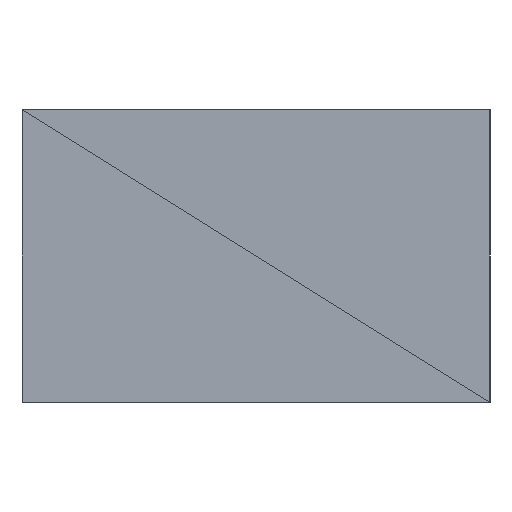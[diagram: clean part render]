
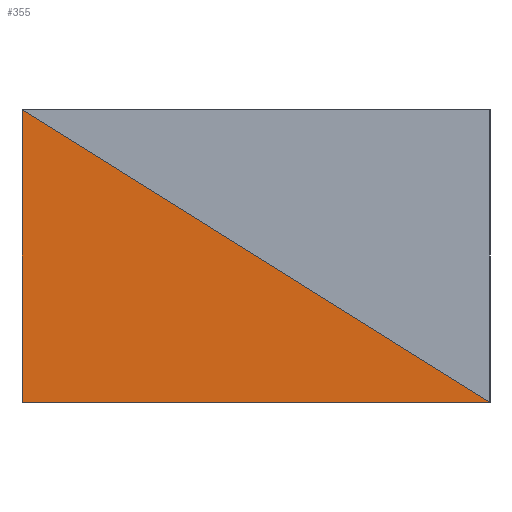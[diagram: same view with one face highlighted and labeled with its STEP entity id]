
A CAD part, left-side view. The second image highlights one B-rep face of the part: STEP entity #355.
In plain terms, the highlighted planar face has unit normal (-1, 0, 0).
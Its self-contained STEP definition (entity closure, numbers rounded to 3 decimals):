
#24 = VERTEX_POINT('',#25);
#25 = CARTESIAN_POINT('',(-463.,89.,330.));
#32 = PLANE('',#33);
#33 = AXIS2_PLACEMENT_3D('',#34,#35,#36);
#34 = CARTESIAN_POINT('',(-426.56,111.56,330.));
#35 = DIRECTION('',(-0.,-0.,-1.));
#36 = DIRECTION('',(-1.,0.,0.));
#55 = EDGE_CURVE('',#24,#56,#58,.T.);
#56 = VERTEX_POINT('',#57);
#57 = CARTESIAN_POINT('',(-463.,121.,330.));
#58 = SURFACE_CURVE('',#59,(#63,#70),.PCURVE_S1.);
#59 = LINE('',#60,#61);
#60 = CARTESIAN_POINT('',(-463.,89.,330.));
#61 = VECTOR('',#62,1.);
#62 = DIRECTION('',(0.,1.,0.));
#63 = PCURVE('',#32,#64);
#64 = DEFINITIONAL_REPRESENTATION('',(#65),#69);
#65 = LINE('',#66,#67);
#66 = CARTESIAN_POINT('',(36.44,-22.56));
#67 = VECTOR('',#68,1.);
#68 = DIRECTION('',(0.,1.));
#69 = ( GEOMETRIC_REPRESENTATION_CONTEXT(2) 
PARAMETRIC_REPRESENTATION_CONTEXT() REPRESENTATION_CONTEXT('2D SPACE',''
  ) );
#70 = PCURVE('',#71,#76);
#71 = PLANE('',#72);
#72 = AXIS2_PLACEMENT_3D('',#73,#74,#75);
#73 = CARTESIAN_POINT('',(-463.,108.566,336.434));
#74 = DIRECTION('',(-1.,-0.,-0.));
#75 = DIRECTION('',(0.,0.,-1.));
#76 = DEFINITIONAL_REPRESENTATION('',(#77),#80);
#77 = B_SPLINE_CURVE_WITH_KNOTS('',1,(#78,#79),.UNSPECIFIED.,.F.,.F.,(2,
    2),(0.,32.),.PIECEWISE_BEZIER_KNOTS.);
#78 = CARTESIAN_POINT('',(6.434,19.566));
#79 = CARTESIAN_POINT('',(6.434,-12.434));
#80 = ( GEOMETRIC_REPRESENTATION_CONTEXT(2) 
PARAMETRIC_REPRESENTATION_CONTEXT() REPRESENTATION_CONTEXT('2D SPACE',''
  ) );
#96 = PLANE('',#97);
#97 = AXIS2_PLACEMENT_3D('',#98,#99,#100);
#98 = CARTESIAN_POINT('',(-424.426,121.,335.574));
#99 = DIRECTION('',(0.,1.,0.));
#100 = DIRECTION('',(0.,-0.,1.));
#258 = PLANE('',#259);
#259 = AXIS2_PLACEMENT_3D('',#260,#261,#262);
#260 = CARTESIAN_POINT('',(-463.,101.434,343.566));
#261 = DIRECTION('',(-1.,-0.,-0.));
#262 = DIRECTION('',(0.,0.,-1.));
#355 = ADVANCED_FACE('',(#356),#71,.T.);
#356 = FACE_BOUND('',#357,.T.);
#357 = EDGE_LOOP('',(#358,#380,#381));
#358 = ORIENTED_EDGE('',*,*,#359,.T.);
#359 = EDGE_CURVE('',#360,#56,#362,.T.);
#360 = VERTEX_POINT('',#361);
#361 = CARTESIAN_POINT('',(-463.,121.,350.));
#362 = SURFACE_CURVE('',#363,(#367,#374),.PCURVE_S1.);
#363 = LINE('',#364,#365);
#364 = CARTESIAN_POINT('',(-463.,121.,350.));
#365 = VECTOR('',#366,1.);
#366 = DIRECTION('',(0.,0.,-1.));
#367 = PCURVE('',#71,#368);
#368 = DEFINITIONAL_REPRESENTATION('',(#369),#373);
#369 = LINE('',#370,#371);
#370 = CARTESIAN_POINT('',(-13.566,-12.434));
#371 = VECTOR('',#372,1.);
#372 = DIRECTION('',(1.,0.));
#373 = ( GEOMETRIC_REPRESENTATION_CONTEXT(2) 
PARAMETRIC_REPRESENTATION_CONTEXT() REPRESENTATION_CONTEXT('2D SPACE',''
  ) );
#374 = PCURVE('',#96,#375);
#375 = DEFINITIONAL_REPRESENTATION('',(#376),#379);
#376 = B_SPLINE_CURVE_WITH_KNOTS('',1,(#377,#378),.UNSPECIFIED.,.F.,.F.,
  (2,2),(0.,20.),.PIECEWISE_BEZIER_KNOTS.);
#377 = CARTESIAN_POINT('',(14.426,-38.574));
#378 = CARTESIAN_POINT('',(-5.574,-38.574));
#379 = ( GEOMETRIC_REPRESENTATION_CONTEXT(2) 
PARAMETRIC_REPRESENTATION_CONTEXT() REPRESENTATION_CONTEXT('2D SPACE',''
  ) );
#380 = ORIENTED_EDGE('',*,*,#55,.F.);
#381 = ORIENTED_EDGE('',*,*,#382,.T.);
#382 = EDGE_CURVE('',#24,#360,#383,.T.);
#383 = SURFACE_CURVE('',#384,(#388,#395),.PCURVE_S1.);
#384 = LINE('',#385,#386);
#385 = CARTESIAN_POINT('',(-463.,89.,330.));
#386 = VECTOR('',#387,1.);
#387 = DIRECTION('',(0.,0.848,0.53));
#388 = PCURVE('',#71,#389);
#389 = DEFINITIONAL_REPRESENTATION('',(#390),#394);
#390 = LINE('',#391,#392);
#391 = CARTESIAN_POINT('',(6.434,19.566));
#392 = VECTOR('',#393,1.);
#393 = DIRECTION('',(-0.53,-0.848));
#394 = ( GEOMETRIC_REPRESENTATION_CONTEXT(2) 
PARAMETRIC_REPRESENTATION_CONTEXT() REPRESENTATION_CONTEXT('2D SPACE',''
  ) );
#395 = PCURVE('',#258,#396);
#396 = DEFINITIONAL_REPRESENTATION('',(#397),#400);
#397 = B_SPLINE_CURVE_WITH_KNOTS('',1,(#398,#399),.UNSPECIFIED.,.F.,.F.,
  (2,2),(0.,37.736),.PIECEWISE_BEZIER_KNOTS.);
#398 = CARTESIAN_POINT('',(13.566,12.434));
#399 = CARTESIAN_POINT('',(-6.434,-19.566));
#400 = ( GEOMETRIC_REPRESENTATION_CONTEXT(2) 
PARAMETRIC_REPRESENTATION_CONTEXT() REPRESENTATION_CONTEXT('2D SPACE',''
  ) );
